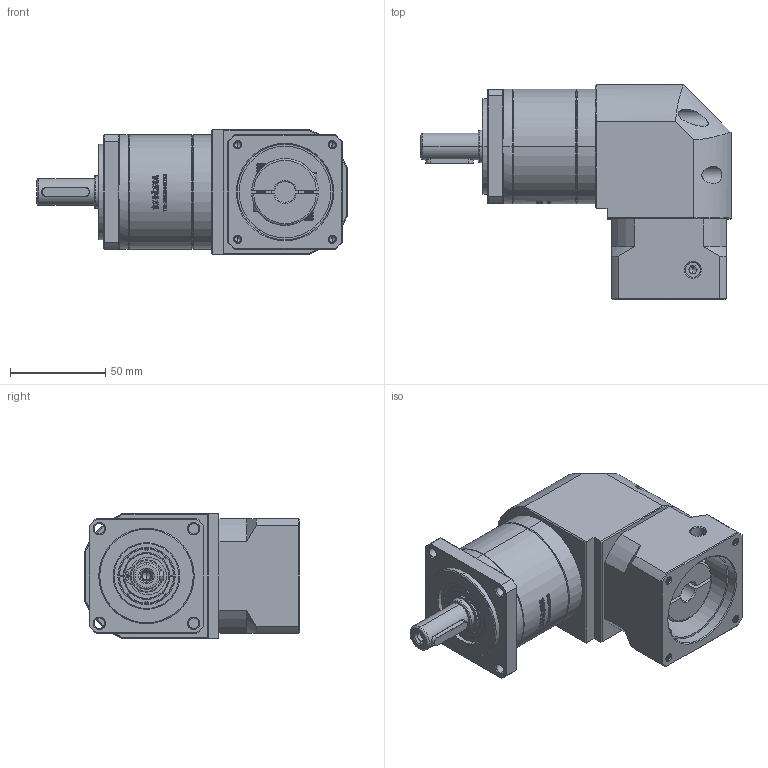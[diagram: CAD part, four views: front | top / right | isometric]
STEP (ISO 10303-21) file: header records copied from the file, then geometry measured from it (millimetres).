
FILE_DESCRIPTION (( 'STEP AP214' ), '1' );
FILE_NAME ('ZFR60-D14-L1-11-50-70-M4.STEP', '2022-04-20T08:33:17', ( '' ), ( 'Microsoft' ), 'SwSTEP 2.0', 'SolidWorks 2016', '' );
FILE_SCHEMA (( 'AUTOMOTIVE_DESIGN' ));
Length unit declared in the file: millimetre
Products named in the file (1): ZFR60-D14-L1-11-50-70-M4
Bounding box: 162.5 x 112.7 x 65 mm (x, y, z)
Volume: 537409.5 mm3; surface area: 78489.7 mm2
Topology: 5 solids, 6 shells, 2684 faces, 7321 edges, 4774 vertices
Faces by surface type: plane 1397, bspline 579, cylinder 394, cone 288, torus 26
Entity records: 146706 total; most frequent: CARTESIAN_POINT 54839, ORIENTED_EDGE 14598, DIRECTION 10514, EDGE_CURVE 7299, VERTEX_POINT 4774, VECTOR 4380, LINE 4380, AXIS2_PLACEMENT_3D 3067
